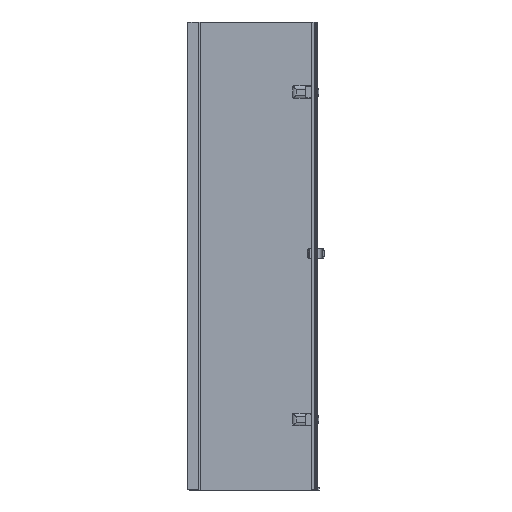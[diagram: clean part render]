
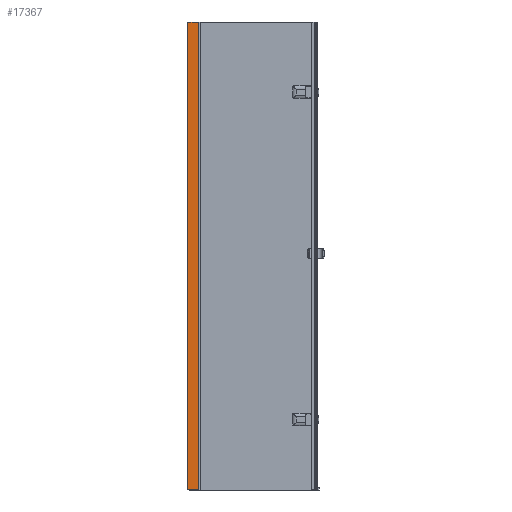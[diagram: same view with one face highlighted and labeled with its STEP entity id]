
A CAD part, left-side view. The second image highlights one B-rep face of the part: STEP entity #17367.
In plain terms, the highlighted planar face has unit normal (-1, 0, 0).
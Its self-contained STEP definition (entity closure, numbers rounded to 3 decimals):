
#2040=FACE_OUTER_BOUND($,#3009,.T.);
#3009=EDGE_LOOP($,(#14924,#14925,#14926,#14927));
#4764=LINE($,#31894,#6467);
#4771=LINE($,#31906,#6474);
#4778=LINE($,#31922,#6481);
#4779=LINE($,#31924,#6482);
#6467=VECTOR($,#23220,2000.);
#6474=VECTOR($,#23231,44.25);
#6481=VECTOR($,#23250,2000.);
#6482=VECTOR($,#23253,44.25);
#7989=VERTEX_POINT($,#31891);
#7990=VERTEX_POINT($,#31893);
#7993=VERTEX_POINT($,#31904);
#7996=VERTEX_POINT($,#31920);
#10313=EDGE_CURVE($,#7990,#7989,#4764,.T.);
#10321=EDGE_CURVE($,#7993,#7989,#4771,.T.);
#10329=EDGE_CURVE($,#7993,#7996,#4778,.T.);
#10330=EDGE_CURVE($,#7990,#7996,#4779,.T.);
#14924=ORIENTED_EDGE($,*,*,#10321,.F.);
#14925=ORIENTED_EDGE($,*,*,#10329,.T.);
#14926=ORIENTED_EDGE($,*,*,#10330,.F.);
#14927=ORIENTED_EDGE($,*,*,#10313,.T.);
#15544=PLANE($,#18782);
#17367=ADVANCED_FACE($,(#2040),#15544,.T.);
#18782=AXIS2_PLACEMENT_3D($,#31923,#23251,#23252);
#23220=DIRECTION($,(0.,0.,-1.));
#23231=DIRECTION($,(0.,1.,0.));
#23250=DIRECTION($,(0.,0.,1.));
#23251=DIRECTION('center_axis',(-1.,0.,0.));
#23252=DIRECTION('ref_axis',(0.,-1.,0.));
#23253=DIRECTION($,(0.,-1.,0.));
#31891=CARTESIAN_POINT('',(1340.733,445.956,-514.056));
#31893=CARTESIAN_POINT('',(1340.733,445.956,1485.944));
#31894=CARTESIAN_POINT($,(1340.733,445.956,1485.944));
#31904=CARTESIAN_POINT('',(1340.733,401.706,-514.056));
#31906=CARTESIAN_POINT($,(1340.733,431.956,-514.056));
#31920=CARTESIAN_POINT('',(1340.733,401.706,1485.944));
#31922=CARTESIAN_POINT($,(1340.733,401.706,-514.056));
#31923=CARTESIAN_POINT('Origin',(1340.733,443.956,-514.056));
#31924=CARTESIAN_POINT($,(1340.733,445.956,1485.944));
